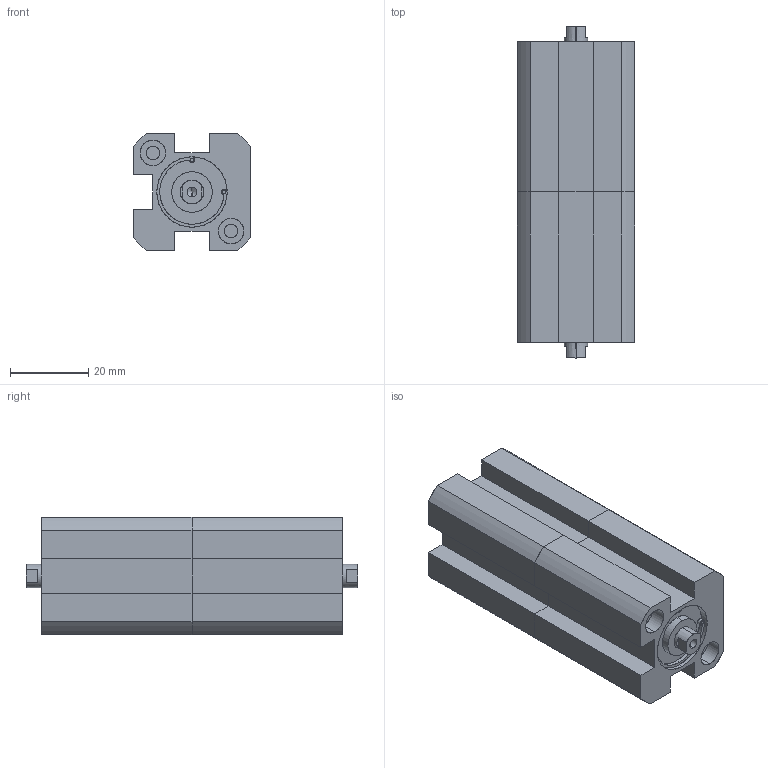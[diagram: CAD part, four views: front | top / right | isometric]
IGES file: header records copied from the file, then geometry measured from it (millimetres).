
Start section: SolidWorks IGES file using analytic representation for surfaces
Global section: file name: C:\Users\Toshiba\Desktop\XGD7-16-10-10.IGS; native system: SolidWorks 2014; preprocessor: SolidWorks 2014; author: Toshiba; date: 160805.094207; units: millimetre
Bounding box: 30 x 85 x 30 mm (x, y, z)
Surface area: 17113.1 mm2 (no closed solid volume)
Topology: 0 solids, 0 shells, 154 faces, 2342 edges, 2330 vertices
Faces by surface type: revolution 90, bspline 64
